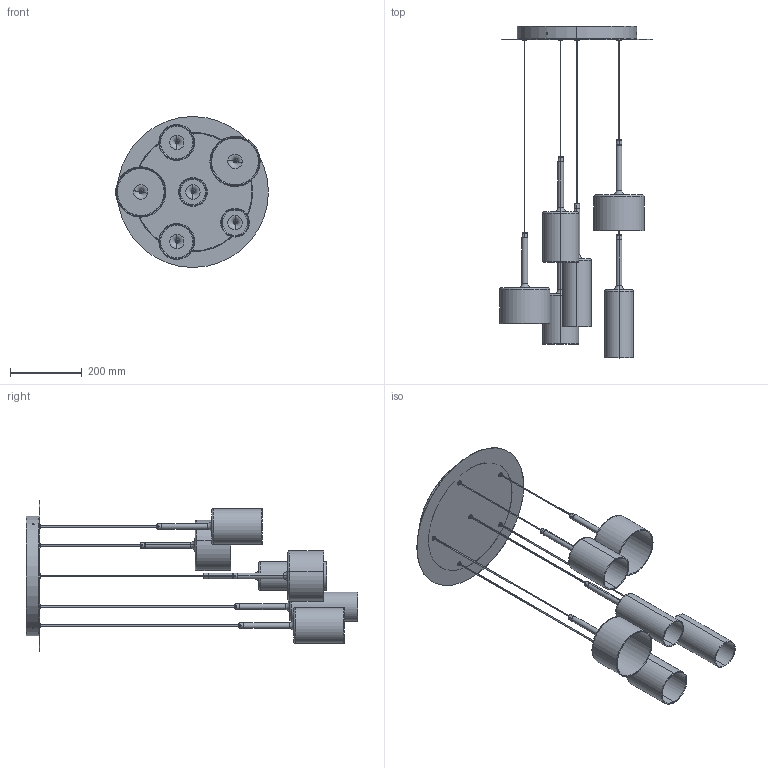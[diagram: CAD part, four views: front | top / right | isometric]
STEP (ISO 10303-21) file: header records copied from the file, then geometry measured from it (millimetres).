
FILE_DESCRIPTION (( 'STEP AP203' ), '1' );
FILE_NAME ('SPSPILX06XXXXXX-PER 3D.STEP', '2025-06-25T16:52:55', ( '' ), ( '' ), 'SwSTEP 2.0', 'SolidWorks 2024', '' );
FILE_SCHEMA (( 'CONFIG_CONTROL_DESIGN' ));
Length unit declared in the file: millimetre
Products named in the file (21): PENDENTE SPILLRAY EVO M-00; SPSPILX06XXXXXX-PER 3D; CAVO NL2CN_CAVO NL2CN; WSM2G1522-FR------; WSCM2C0205-0100-00; PENDENTE SPILLRAY EVO P-00; PENDENTE SPILLRAY EVO G-00; WSASS-000000059-00; WSCM2F0028-0100-00_Default<按加工>; VSPILLRAYPCS; VSPILLRAYMCS; VSPILLRAYGCS; WSCM2A0119-0700-00
Assembly tree (33 placements, depth 3):
  SPSPILX06XXXXXX-PER 3D
    WSASS-000000059-00
      WSCM2F0028-0100-00_Default<按加工>
      WSCM2C0205-0100-00
      WSM2G1522-FR------  x6
    PENDENTE SPILLRAY EVO P-00
      WSCM2A0119-0700-00
      CAVO NL2CN_CAVO NL2CN
      VSPILLRAYPCS
    PENDENTE SPILLRAY EVO P-00
      WSCM2A0119-0700-00
      CAVO NL2CN_CAVO NL2CN
      VSPILLRAYPCS
    PENDENTE SPILLRAY EVO M-00
      WSCM2A0119-0700-00
      CAVO NL2CN_CAVO NL2CN
      VSPILLRAYMCS
    PENDENTE SPILLRAY EVO G-00
      WSCM2A0119-0700-00
      CAVO NL2CN_CAVO NL2CN
      VSPILLRAYGCS
    PENDENTE SPILLRAY EVO M-00
      WSCM2A0119-0700-00
      CAVO NL2CN_CAVO NL2CN
      VSPILLRAYMCS
    PENDENTE SPILLRAY EVO G-00
      WSCM2A0119-0700-00
      CAVO NL2CN_CAVO NL2CN
      VSPILLRAYGCS
Bounding box: 424.99 x 923.4 x 420 mm (x, y, z)
Volume: 1315150.3 mm3; surface area: 1316730.7 mm2
Topology: 44 solids, 44 shells, 773 faces, 1596 edges, 948 vertices
Faces by surface type: cylinder 312, torus 168, plane 161, cone 120, bspline 12
Entity records: 15851 total; most frequent: CARTESIAN_POINT 2743, DIRECTION 2576, ORIENTED_EDGE 1928, AXIS2_PLACEMENT_3D 1131, EDGE_CURVE 964, CIRCLE 618, VERTEX_POINT 580, EDGE_LOOP 540
